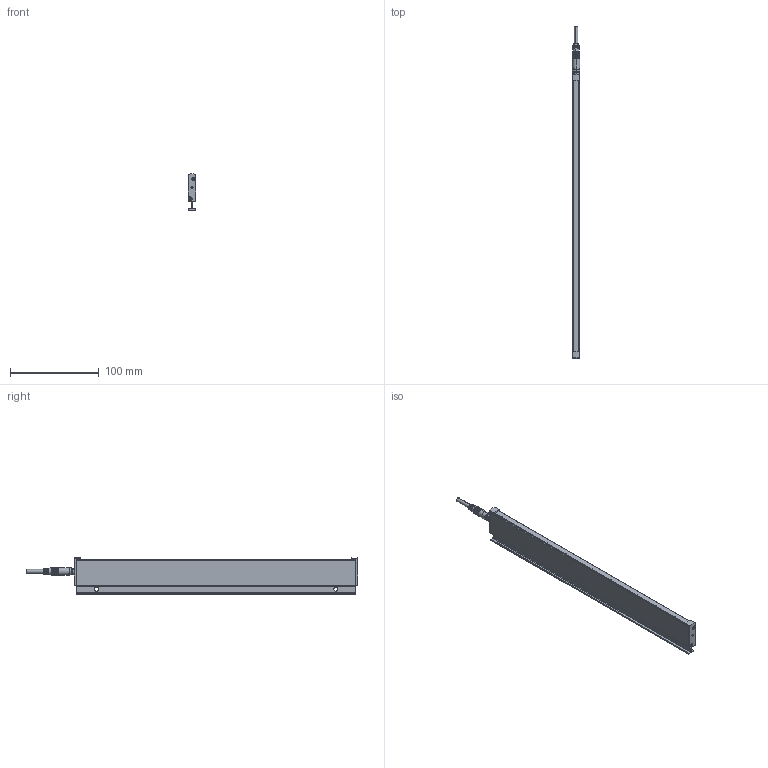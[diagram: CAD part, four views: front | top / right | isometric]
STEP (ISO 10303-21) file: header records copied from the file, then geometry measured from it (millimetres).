
FILE_DESCRIPTION (( 'STEP AP214' ), '1' );
FILE_NAME ('ILG-L-K2-0320mm.STEP', '2017-07-11T07:27:48', ( '' ), ( '' ), 'SwSTEP 2.0', 'SolidWorks 2016', '' );
FILE_SCHEMA (( 'AUTOMOTIVE_DESIGN' ));
Length unit declared in the file: millimetre
Products named in the file (1): ILG-L-K2-0320mm
Bounding box: 9 x 374.5 x 40.71 mm (x, y, z)
Surface area: 67575.7 mm2 (no closed solid volume)
Topology: 0 solids, 13 shells, 677 faces, 1774 edges, 1127 vertices
Faces by surface type: cylinder 284, plane 255, cone 90, bspline 32, torus 16
Entity records: 30436 total; most frequent: CARTESIAN_POINT 6465, ORIENTED_EDGE 3501, DIRECTION 3378, EDGE_CURVE 1758, AXIS2_PLACEMENT_3D 1289, VERTEX_POINT 1127, LINE 800, VECTOR 800
